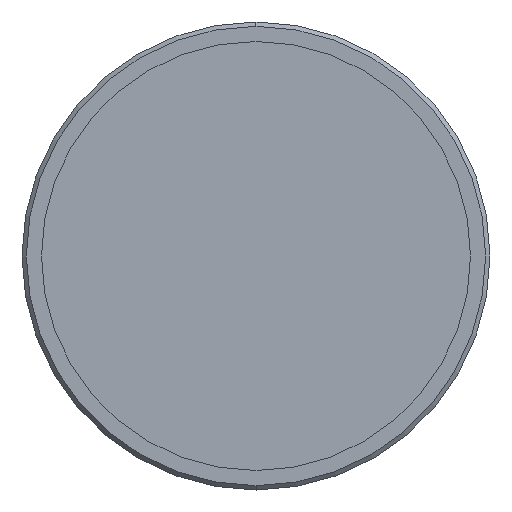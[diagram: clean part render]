
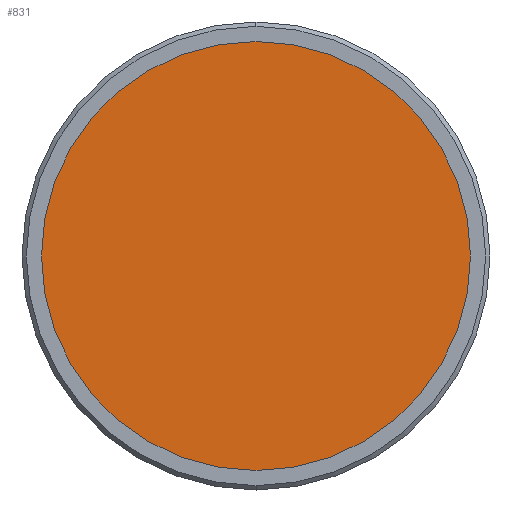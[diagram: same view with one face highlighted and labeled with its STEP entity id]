
A CAD part, left-side view. The second image highlights one B-rep face of the part: STEP entity #831.
In plain terms, the highlighted planar face has unit normal (-1, 0, 0).
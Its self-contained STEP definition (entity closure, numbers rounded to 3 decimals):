
#92 = PLANE ( 'NONE',  #422 ) ;
#93 = AXIS2_PLACEMENT_3D ( 'NONE', #599, #1179, #1462 ) ;
#178 = CARTESIAN_POINT ( 'NONE',  ( 1.967, 0., 0. ) ) ;
#199 = DIRECTION ( 'NONE',  ( 0., 0., 1. ) ) ;
#422 = AXIS2_PLACEMENT_3D ( 'NONE', #825, #1528, #691 ) ;
#435 = FACE_OUTER_BOUND ( 'NONE', #1645, .T. ) ;
#580 = EDGE_CURVE ( 'NONE', #958, #834, #871, .T. ) ;
#599 = CARTESIAN_POINT ( 'NONE',  ( 1.967, 0., 0. ) ) ;
#691 = DIRECTION ( 'NONE',  ( 0., 0., -1. ) ) ;
#709 = CARTESIAN_POINT ( 'NONE',  ( 1.967, 0., 24.75 ) ) ;
#825 = CARTESIAN_POINT ( 'NONE',  ( 1.967, -25.047, 25.047 ) ) ;
#831 = ADVANCED_FACE ( 'NONE', ( #435 ), #92, .F. ) ;
#834 = VERTEX_POINT ( 'NONE', #1381 ) ;
#836 = AXIS2_PLACEMENT_3D ( 'NONE', #178, #1166, #199 ) ;
#871 = CIRCLE ( 'NONE', #836, 24.75 ) ;
#958 = VERTEX_POINT ( 'NONE', #709 ) ;
#1065 = ORIENTED_EDGE ( 'NONE', *, *, #1078, .F. ) ;
#1078 = EDGE_CURVE ( 'NONE', #834, #958, #1414, .T. ) ;
#1166 = DIRECTION ( 'NONE',  ( 1., 0., 0. ) ) ;
#1179 = DIRECTION ( 'NONE',  ( 1., 0., 0. ) ) ;
#1381 = CARTESIAN_POINT ( 'NONE',  ( 1.967, 0., -24.75 ) ) ;
#1414 = CIRCLE ( 'NONE', #93, 24.75 ) ;
#1462 = DIRECTION ( 'NONE',  ( 0., 0., 1. ) ) ;
#1528 = DIRECTION ( 'NONE',  ( 1., 0., 0. ) ) ;
#1645 = EDGE_LOOP ( 'NONE', ( #1781, #1065 ) ) ;
#1781 = ORIENTED_EDGE ( 'NONE', *, *, #580, .F. ) ;
